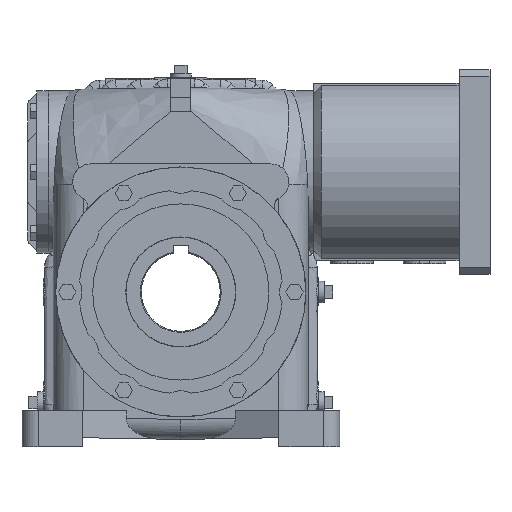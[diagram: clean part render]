
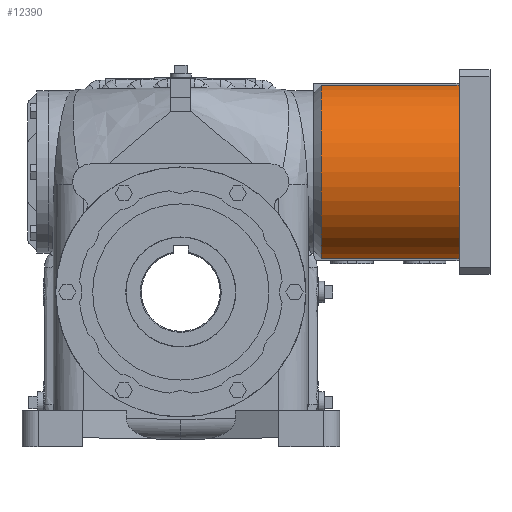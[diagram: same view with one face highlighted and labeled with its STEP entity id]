
A CAD part, front view. The second image highlights one B-rep face of the part: STEP entity #12390.
In plain terms, the highlighted cylindrical face has radius 112.713 mm (diameter 225.425 mm), a partial arc.
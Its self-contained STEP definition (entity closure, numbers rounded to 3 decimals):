
#238=CYLINDRICAL_SURFACE('',#15325,112.713);
#1759=LINE('',#36536,#2688);
#1763=LINE('',#36543,#2692);
#2688=VECTOR('',#18164,1000.);
#2692=VECTOR('',#18174,1000.);
#6090=ORIENTED_EDGE('',*,*,#7903,.F.);
#6091=ORIENTED_EDGE('',*,*,#7943,.F.);
#6092=ORIENTED_EDGE('',*,*,#7919,.T.);
#6093=ORIENTED_EDGE('',*,*,#7947,.T.);
#7903=EDGE_CURVE('',#9144,#9145,#9507,.T.);
#7919=EDGE_CURVE('',#9160,#9159,#9514,.T.);
#7943=EDGE_CURVE('',#9160,#9144,#1759,.T.);
#7947=EDGE_CURVE('',#9159,#9145,#1763,.T.);
#9144=VERTEX_POINT('',#36440);
#9145=VERTEX_POINT('',#36442);
#9159=VERTEX_POINT('',#36479);
#9160=VERTEX_POINT('',#36481);
#9507=CIRCLE('',#15291,112.713);
#9514=CIRCLE('',#15303,112.713);
#10357=EDGE_LOOP('',(#6090,#6091,#6092,#6093));
#11242=FACE_BOUND('',#10357,.T.);
#12390=ADVANCED_FACE('',(#11242),#238,.T.);
#15291=AXIS2_PLACEMENT_3D('',#36441,#18081,#18082);
#15303=AXIS2_PLACEMENT_3D('',#36480,#18113,#18114);
#15325=AXIS2_PLACEMENT_3D('',#36545,#18177,#18178);
#18081=DIRECTION('',(1.,0.,0.));
#18082=DIRECTION('',(0.,0.,-1.));
#18113=DIRECTION('',(1.,0.,0.));
#18114=DIRECTION('',(0.,0.,-1.));
#18164=DIRECTION('',(1.,0.,0.));
#18174=DIRECTION('',(1.,0.,0.));
#18177=DIRECTION('',(1.,0.,0.));
#18178=DIRECTION('',(0.,0.,-1.));
#36440=CARTESIAN_POINT('',(185.014,-24.719,109.968));
#36441=CARTESIAN_POINT('',(185.014,0.,0.));
#36442=CARTESIAN_POINT('',(185.014,-24.713,-109.97));
#36479=CARTESIAN_POINT('',(9.804,-24.713,-109.97));
#36480=CARTESIAN_POINT('',(9.804,0.,0.));
#36481=CARTESIAN_POINT('',(9.804,-24.719,109.968));
#36536=CARTESIAN_POINT('',(122.103,-24.719,109.968));
#36543=CARTESIAN_POINT('',(122.103,-24.713,-109.97));
#36545=CARTESIAN_POINT('',(122.103,0.,0.));
